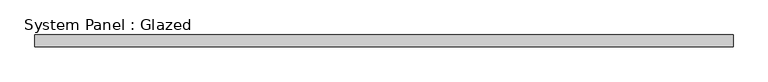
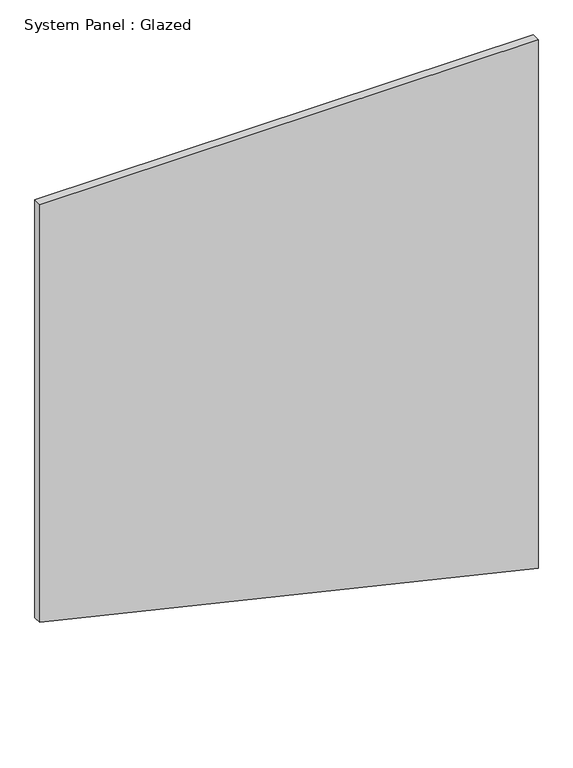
"""IFC4 building model written with IfcOpenShell, lengths in millimetres: plate geometry, System Panel : Glazed."""

from ifc_helpers import new_model, si_unit, frame, origin, place, context, project, spatial, polyline, outline, extrude, source, transform, mapped, element, save


def system_panel_glazed_7775f79c(model_context):
    return source(origin(), model_context, "Body", "SweptSolid", [
        extrude(outline(polyline([(345.7559661, -735.8695652), (0.0, 735.8695652), (1649.7984245, 735.8695652), (1649.7984245, -735.8695652), (345.7559661, -735.8695652)])), frame((0.0, 24.5, 0.0), z_axis=(0.0, 1.0, 0.0), x_axis=(0.0, 0.0, 1.0)), (0.0, 0.0, 1.0), 25.0),
    ])


if __name__ == "__main__":
    model = new_model("IFC4")
    model_context = context("Model", 3, world=origin())
    ifc_project = project(units=[si_unit("LENGTHUNIT", "METRE", prefix="MILLI")], contexts=[model_context])
    site = spatial("IfcSite", under=ifc_project)
    building = spatial("IfcBuilding", under=site)
    placement = place(None, origin())
    system_panel_glazed_shape = system_panel_glazed_7775f79c(model_context)
    element("IfcPlate", 1, ObjectType="System Panel : Glazed", at=placement, inside=building, context=model_context, shape_type="MappedRepresentation", body=[
        mapped(system_panel_glazed_shape, transform((0.0, 0.0, 0.0), x_axis=(1.0, 0.0, 0.0), y_axis=(0.0, 1.0, 0.0), z_axis=(0.0, 0.0, 1.0))),
    ])
    save(model, "model.ifc")
